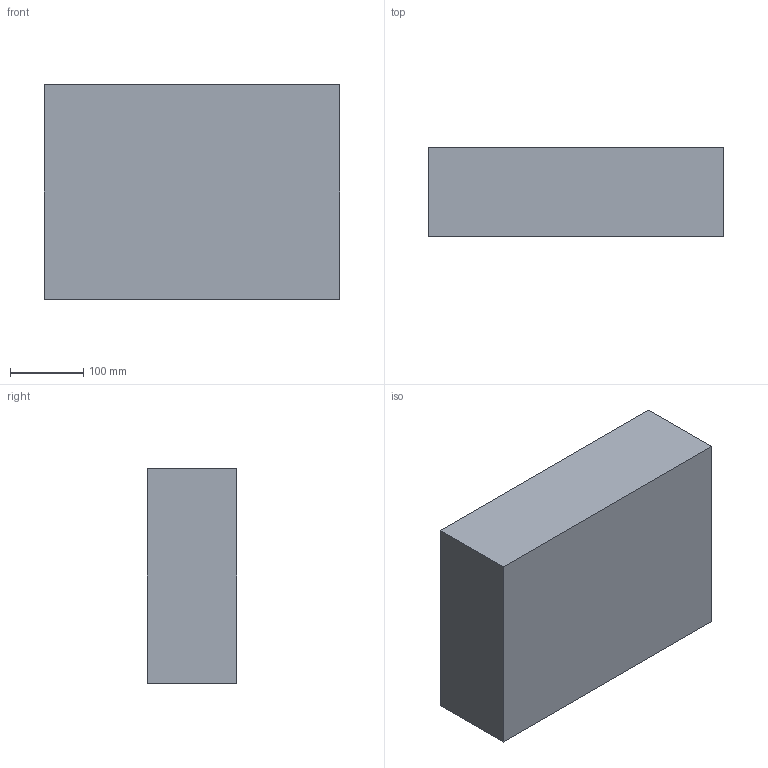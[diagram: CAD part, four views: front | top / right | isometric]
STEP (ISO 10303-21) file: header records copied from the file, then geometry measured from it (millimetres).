
FILE_DESCRIPTION (( 'STEP AP214' ), '1' );
FILE_NAME ('1452-931F Bottom PID 5-03-2026.STEP', '2026-05-04T04:36:48', ( '' ), ( '' ), 'SwSTEP 2.0', 'SolidWorks 2025', '' );
FILE_SCHEMA (( 'AUTOMOTIVE_DESIGN' ));
Length unit declared in the file: inch
Products named in the file (1): 1452-931F Bottom PID 5-03-2026
Bounding box: 402.08 x 121.42 x 291.83 mm (x, y, z)
Volume: 3684094.6 mm3; surface area: 526328.9 mm2
Topology: 1 solids, 1 shells, 54 faces, 102 edges, 64 vertices
Faces by surface type: bspline 30, plane 24
Entity records: 1519 total; most frequent: CARTESIAN_POINT 679, ORIENTED_EDGE 204, EDGE_CURVE 102, DIRECTION 100, EDGE_LOOP 68, VERTEX_POINT 64, FACE_OUTER_BOUND 54, ADVANCED_FACE 54
